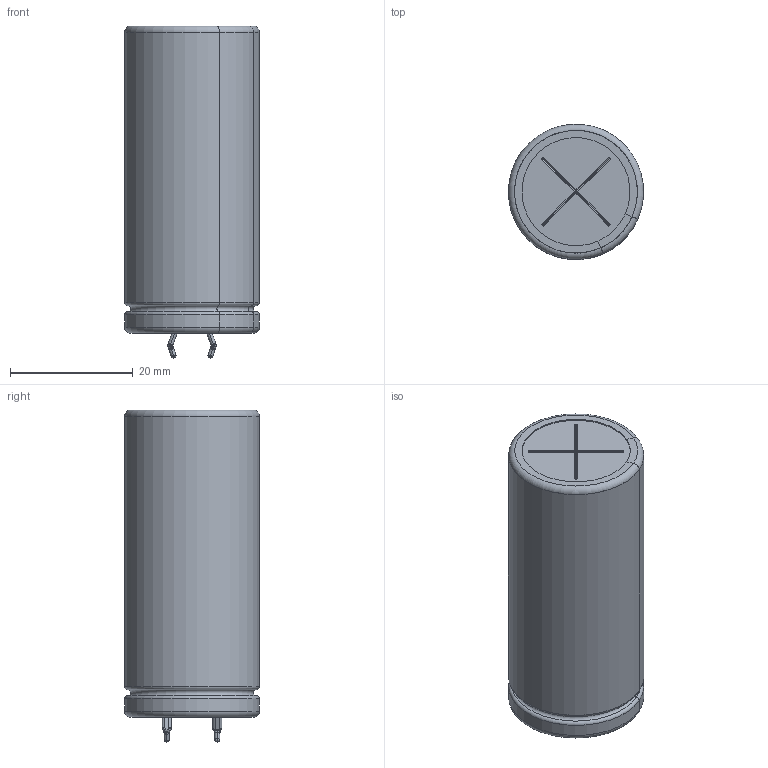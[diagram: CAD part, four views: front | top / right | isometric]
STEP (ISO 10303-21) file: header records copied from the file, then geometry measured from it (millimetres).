
FILE_DESCRIPTION(/* description */ (''),/* implementation_level */ '2;1');
FILE_NAME(/* name */ '22x50_Snap.stp',/* time_stamp */ '2017-09-11T14:27:28+09:00',/* author */ (''),/* organization */ (''),/* preprocessor_version */ 'ST-DEVELOPER v16',/* originating_system */ 'SIEMENS PLM Software NX 11.0',/* authorisation */ '');
FILE_SCHEMA (('AUTOMOTIVE_DESIGN { 1 0 10303 214 3 1 1 1 }'));
Length unit declared in the file: millimetre
Products named in the file (1): 22x50_Snap_0
Bounding box: 21.93 x 21.93 x 54.02 mm (x, y, z)
Volume: 18824.9 mm3; surface area: 11729.9 mm2
Topology: 5 solids, 5 shells, 208 faces, 523 edges, 310 vertices
Faces by surface type: cylinder 76, plane 75, torus 25, sphere 20, bspline 12
Full cylindrical faces by diameter (mm): 4 x2, 21.6 x2
Entity records: 6789 total; most frequent: CARTESIAN_POINT 1265, DIRECTION 1128, ORIENTED_EDGE 988, EDGE_CURVE 494, AXIS2_PLACEMENT_3D 437, VERTEX_POINT 310, LINE 254, VECTOR 254
